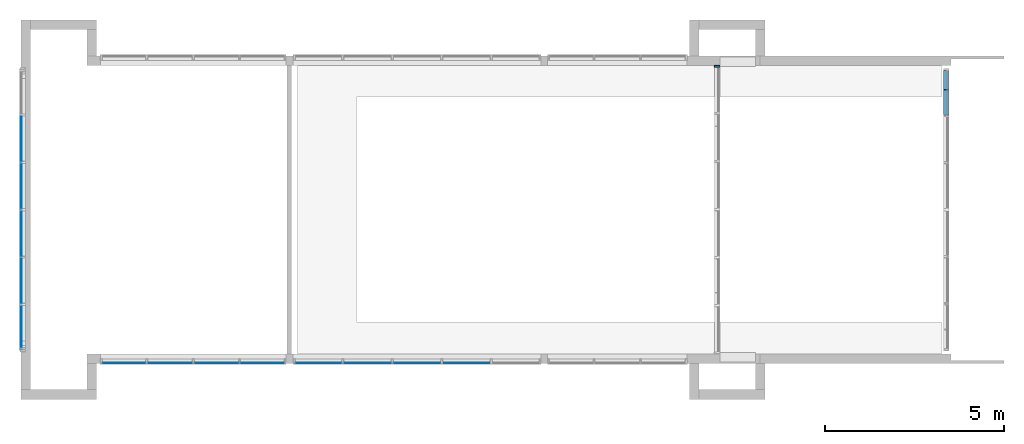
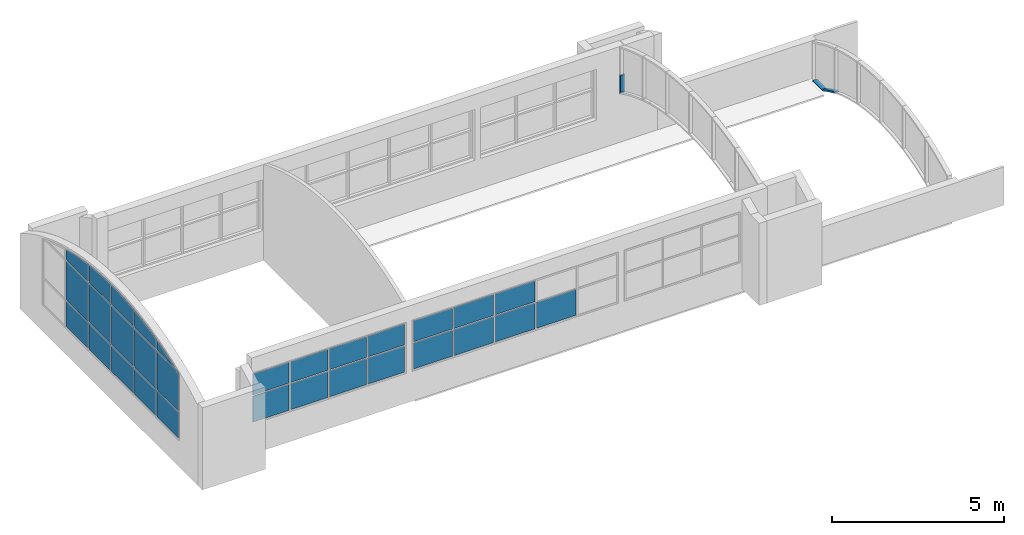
# One storey, part 9 of 14: 30 plates, 5 members, 6 elements without a shape of their own.
"""IFC2X3 building model written with IfcOpenShell, lengths in metres."""

import ifcopenshell
import ifcopenshell.guid

model = None  # the IFC model being written
_history = None  # IfcOwnerHistory: only IFC2X3 demands one
_inside = {}  # id of a spatial element -> (the spatial element, [elements in it])
_under = {}  # id of a project, library or spatial element -> (it, [spatial elements below it])
_declared = {}  # id of a project -> (the project, [libraries it declares])
_typed = {}  # id of a type object -> (the type object, [elements of that type])
_made_of = {}  # id of a material, layer set ... -> (it, [elements and type objects made of it])


def new_model(schema):
    """Start an empty IFC model of exactly this schema.

    Asked for "IFC4X3", IfcOpenShell would pick the latest addendum, in which some entities
    have other attributes; the version numbers below select the first issue.
    IFC2X3 requires an IfcOwnerHistory on every rooted entity: one is made here for all.
    """
    global model, _history
    if schema == "IFC4X3":
        model = ifcopenshell.file(schema_version=(4, 3, 0, 0))
    else:
        model = ifcopenshell.file(schema=schema)
    _inside.clear()
    _under.clear()
    _declared.clear()
    _typed.clear()
    _made_of.clear()
    _history = None
    if model.schema == "IFC2X3":
        org = make("IfcOrganization", Name="unknown")
        user = make(
            "IfcPersonAndOrganization",
            ThePerson=make("IfcPerson", FamilyName="unknown"),
            TheOrganization=org,
        )
        app = make(
            "IfcApplication",
            ApplicationDeveloper=org,
            Version="unknown",
            ApplicationFullName="unknown",
            ApplicationIdentifier="unknown",
        )
        _history = make(
            "IfcOwnerHistory",
            OwningUser=user,
            OwningApplication=app,
            ChangeAction="ADDED",
            CreationDate=0,
        )
    return model


def make(cls, **values):
    """One entity of the class cls with the attributes given. An attribute that is None is left unset."""
    return model.create_entity(
        cls, **{name: value for name, value in values.items() if value is not None}
    )


def entity(cls, *values):
    """Any entity or typed value of the class cls, its attributes in the order of the schema. None: left unset."""
    e = model.create_entity(cls)
    for i, value in enumerate(values):
        if value is not None:
            e[i] = value
    return e


def rooted(cls, **values):
    """An entity with a GlobalId (a new one), such as an element, a storey or a relation."""
    return make(cls, GlobalId=ifcopenshell.guid.new(), OwnerHistory=_history, **values)


def si_unit(unit_type, name, prefix=None):
    """IfcSIUnit, for example si_unit("LENGTHUNIT", "METRE", prefix="MILLI")."""
    return make("IfcSIUnit", UnitType=unit_type, Prefix=prefix, Name=name)


def converted_unit(unit_type, name, factor, base, dimensions=None, offset=None):
    """IfcConversionBasedUnit, such as the inch: factor (a typed value) times the base unit."""
    return make(
        "IfcConversionBasedUnit"
        if offset is None
        else "IfcConversionBasedUnitWithOffset",
        ConversionOffset=offset,
        Dimensions=None
        if dimensions is None
        else entity("IfcDimensionalExponents", *dimensions),
        UnitType=unit_type,
        Name=name,
        ConversionFactor=make(
            "IfcMeasureWithUnit", ValueComponent=factor, UnitComponent=base
        ),
    )


def assignment(units):
    """IfcUnitAssignment: the units of a project."""
    return None if units is None else make("IfcUnitAssignment", Units=units)


def point(xyz):
    """IfcCartesianPoint."""
    return None if xyz is None else make("IfcCartesianPoint", Coordinates=xyz)


def direction(xyz):
    """IfcDirection."""
    return None if xyz is None else make("IfcDirection", DirectionRatios=xyz)


def frame(location, z_axis=None, x_axis=None):
    """IfcAxis2Placement3D, a coordinate frame: its origin and axes. An axis left out is left unset."""
    return make(
        "IfcAxis2Placement3D",
        Location=point(location),
        Axis=direction(z_axis),
        RefDirection=direction(x_axis),
    )


def frame_2d(location, x_axis=None):
    """IfcAxis2Placement2D, a coordinate frame in the plane: its origin and x axis."""
    return make(
        "IfcAxis2Placement2D", Location=point(location), RefDirection=direction(x_axis)
    )


def origin():
    """The frame at (0, 0, 0) with its axes left unset."""
    return frame((0.0, 0.0, 0.0))


def origin_2d_with_axis():
    """The frame at (0, 0) in the plane with the x axis (1, 0) written out."""
    return frame_2d((0.0, 0.0), x_axis=(1.0, 0.0))


def place(relative_to, where):
    """IfcLocalPlacement: puts the frame where relative to a parent placement (None: the world)."""
    return make(
        "IfcLocalPlacement", PlacementRelTo=relative_to, RelativePlacement=where
    )


def context(
    kind, dimensions, precision=None, world=None, true_north=None, identifier=None
):
    """IfcGeometricRepresentationContext, for example the 3D "Model" context."""
    return make(
        "IfcGeometricRepresentationContext",
        ContextIdentifier=identifier,
        ContextType=kind,
        CoordinateSpaceDimension=dimensions,
        Precision=precision,
        WorldCoordinateSystem=world,
        TrueNorth=true_north,
    )


def project(units=None, contexts=None):
    """IfcProject with its units and contexts."""
    return rooted(
        "IfcProject",
        Name="project",
        RepresentationContexts=contexts,
        UnitsInContext=assignment(units),
    )


def spatial(cls, under=None, at=None, **own):
    """A site, building, storey or space (cls), placed at a placement, below another one or the project."""
    s = rooted(cls, ObjectPlacement=at, **own)
    if under is not None:
        _under.setdefault(under.id(), (under, []))[1].append(s)
    return s


def polyline(points):
    """IfcPolyline through the points."""
    return make("IfcPolyline", Points=[point(p) for p in points])


def circle_curve(where, radius):
    """IfcCircle in the frame where."""
    return make("IfcCircle", Position=where, Radius=radius)


def parameter(value):
    """IfcParameterValue: where a trimmed curve begins or ends, as a parameter of its basis curve."""
    return model.create_entity("IfcParameterValue", value)


def trimmed(basis, trim1, trim2, sense, master):
    """IfcTrimmedCurve: the piece of a basis curve between two trims."""
    return make(
        "IfcTrimmedCurve",
        BasisCurve=basis,
        Trim1=trim1,
        Trim2=trim2,
        SenseAgreement=sense,
        MasterRepresentation=master,
    )


def segment(curve, same_sense, transition):
    """IfcCompositeCurveSegment."""
    return make(
        "IfcCompositeCurveSegment",
        Transition=transition,
        SameSense=same_sense,
        ParentCurve=curve,
    )


def composite_curve(segments, self_intersect=None):
    """IfcCompositeCurve: segments joined end to end."""
    return make("IfcCompositeCurve", Segments=segments, SelfIntersect=self_intersect)


def profile(cls, at=None, kind="AREA", **sizes):
    """A parametric profile (cls). Its sizes go by their IFC names, for example OverallWidth=200.0."""
    return make(cls, ProfileType=kind, Position=at, **sizes)


def rectangle(**sizes):
    """IfcRectangleProfileDef."""
    return profile("IfcRectangleProfileDef", **sizes)


def outline(outer, holes=None, kind="AREA"):
    """IfcArbitraryClosedProfileDef: a profile drawn as a closed curve; with holes, ...WithVoids."""
    if holes is None:
        return make("IfcArbitraryClosedProfileDef", ProfileType=kind, OuterCurve=outer)
    return make(
        "IfcArbitraryProfileDefWithVoids",
        ProfileType=kind,
        OuterCurve=outer,
        InnerCurves=holes,
    )


def extrude(swept, where, along, depth):
    """IfcExtrudedAreaSolid: the profile swept, set in the frame where, extruded along a direction by depth."""
    return make(
        "IfcExtrudedAreaSolid",
        SweptArea=swept,
        Position=where,
        ExtrudedDirection=direction(along),
        Depth=depth,
    )


def shape(context_of_items, identifier, shape_type, items):
    """IfcShapeRepresentation: the items that make up one representation, for example the "Body"."""
    return make(
        "IfcShapeRepresentation",
        ContextOfItems=context_of_items,
        RepresentationIdentifier=identifier,
        RepresentationType=shape_type,
        Items=items,
    )


def source(mapping_origin, context_of_items, identifier, shape_type, items):
    """IfcRepresentationMap: a shape defined once, which mapped items show again and again."""
    return make(
        "IfcRepresentationMap",
        MappingOrigin=mapping_origin,
        MappedRepresentation=shape(context_of_items, identifier, shape_type, items),
    )


def transform(
    local_origin,
    x_axis=None,
    y_axis=None,
    z_axis=None,
    scale=None,
    scale2=None,
    scale3=None,
    uniform=True,
):
    """IfcCartesianTransformationOperator3D, or its non-uniform kind. x_axis, y_axis, z_axis: its Axis1, 2, 3."""
    if uniform:
        return make(
            "IfcCartesianTransformationOperator3D",
            Axis1=direction(x_axis),
            Axis2=direction(y_axis),
            LocalOrigin=point(local_origin),
            Scale=scale,
            Axis3=direction(z_axis),
        )
    return make(
        "IfcCartesianTransformationOperator3DnonUniform",
        Axis1=direction(x_axis),
        Axis2=direction(y_axis),
        LocalOrigin=point(local_origin),
        Scale=scale,
        Axis3=direction(z_axis),
        Scale2=scale2,
        Scale3=scale3,
    )


def mapped(mapping_source, mapping_target):
    """IfcMappedItem: shows the shape of a source again, moved by a transform."""
    return make(
        "IfcMappedItem", MappingSource=mapping_source, MappingTarget=mapping_target
    )


def material(Name=None, Category=None):
    """IfcMaterial."""
    return make("IfcMaterial", Name=Name, Category=Category)


def made_of(thing, what):
    """Note that an element or type object is made of a material, layer set ...; save() writes the relation."""
    if what is not None:
        _made_of.setdefault(what.id(), (what, []))[1].append(thing)
    return thing


def type_object(cls, material=None, **own):
    """A type object (cls), such as IfcWallType, which elements share."""
    return made_of(rooted(cls, **own), material)


def type_shapes(of_type, sources):
    """Give a type object the sources (RepresentationMaps) that its elements show as mapped items."""
    of_type.RepresentationMaps = sources


def element(
    cls,
    number,
    at=None,
    inside=None,
    cuts=None,
    type_object=None,
    material=None,
    context=None,
    identifier="Body",
    shape_type=None,
    held_by="IfcProductDefinitionShape",
    body=None,
    shapes=None,
    **own,
):
    """One element of the class cls, such as IfcWall. Its Tag is "e" and its number.

    at: its placement. inside: the storey or other place that contains it. cuts: it is an
    opening in that element (IfcRelVoidsElement). A single representation is given by context,
    identifier, shape_type and body (its items); several are given by shapes. held_by: the class
    of the entity that holds the representations. save() writes the other relations.
    """
    e = rooted(cls, Tag="e%d" % number, ObjectPlacement=at, **own)
    if body is not None:
        shapes = [shape(context, identifier, shape_type, body)]
    if shapes is not None:
        e.Representation = make(held_by, Representations=shapes)
    if inside is not None:
        _inside.setdefault(inside.id(), (inside, []))[1].append(e)
    if cuts is not None:
        rooted(
            "IfcRelVoidsElement", RelatingBuildingElement=cuts, RelatedOpeningElement=e
        )
    if type_object is not None:
        _typed.setdefault(type_object.id(), (type_object, []))[1].append(e)
    return made_of(e, material)


def aggregate(whole, parts):
    """IfcRelAggregates: a whole, such as a stair, and the parts it consists of."""
    return rooted("IfcRelAggregates", RelatingObject=whole, RelatedObjects=parts)


def save(model, path):
    """Write the relations noted so far, then the file.

    IfcRelAggregates (storeys below a building ...), IfcRelContainedInSpatialStructure (elements
    in a storey), IfcRelDefinesByType, IfcRelAssociatesMaterial and IfcRelDeclares: one each for
    every whole, place, type object, material and project.
    """
    for whole, parts in _under.values():
        aggregate(whole, parts)
    for where, things in _inside.values():
        rooted(
            "IfcRelContainedInSpatialStructure",
            RelatedElements=things,
            RelatingStructure=where,
        )
    for kind, things in _typed.values():
        rooted("IfcRelDefinesByType", RelatedObjects=things, RelatingType=kind)
    for what, things in _made_of.values():
        rooted("IfcRelAssociatesMaterial", RelatedObjects=things, RelatingMaterial=what)
    for by, libraries in _declared.values():
        rooted("IfcRelDeclares", RelatingContext=by, RelatedDefinitions=libraries)
    model.write(path)


model = new_model("IFC2X3")

# Units and contexts
model_context = context("Model", 3, precision=1e-09, world=origin())
plan_context = context("Plan", 3, precision=1e-09, world=origin())
ifc_project = project(units=[si_unit("LENGTHUNIT", "METRE"), si_unit("AREAUNIT", "SQUARE_METRE"), si_unit("VOLUMEUNIT", "CUBIC_METRE"), converted_unit("PLANEANGLEUNIT", "DEGREE", entity("IfcRatioMeasure", 0.01745329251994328), si_unit("PLANEANGLEUNIT", "RADIAN"), dimensions=[0, 0, 0, 0, 0, 0, 0]), si_unit("TIMEUNIT", "SECOND")], contexts=[model_context, plan_context])

# Site, building, storey
site_placement = place(None, origin())
site = spatial("IfcSite", under=ifc_project, at=site_placement, Name="Default", CompositionType="ELEMENT")
building_placement = place(site_placement, origin())
building = spatial("IfcBuilding", under=site, at=building_placement, CompositionType="ELEMENT")
storey_placement = place(building_placement, frame((0.0, 0.0, 9.25000000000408)))
storey = spatial("IfcBuildingStorey", under=building, at=storey_placement, Name="Roof - Main", CompositionType="ELEMENT", Elevation=9.25000000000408)

# Curtain wall, members
curtain_wall_1_placement = place(storey_placement, origin())
curtain_wall_1 = element("IfcCurtainWall", 1, at=curtain_wall_1_placement, inside=storey, Name="Curtain Wall:Storefront", ObjectType="Curtain Wall:Storefront")
ifc_material_1 = material(Name="Metal - Aluminium")
member_type_1 = type_object("IfcMemberType", Name="50 x 150mm", PredefinedType="MULLION")
shared_shape_1 = source(origin(), model_context, "Body", "SweptSolid", [
    extrude(outline(polyline([(-0.27285610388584, -0.025), (0.2794152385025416, -0.025), (0.2662969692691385, 0.025), (-0.2728561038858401, 0.025), (-0.27285610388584, -0.025)])), frame((-0.025, -0.07499999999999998, -0.2728561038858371), z_axis=(0.0, 1.0, 0.0), x_axis=(0.0, 0.0, -1.0)), (0.0, 0.0, 1.0), 0.15),
])
type_shapes(member_type_1, [shared_shape_1])
member_1_placement = place(storey_placement, frame((-15.23000000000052, 35.58040399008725, 0.0), z_axis=(0.0, 1.0, 0.0), x_axis=(0.0, 0.0, -1.0)))
member_1 = element("IfcMember", 2, at=member_1_placement, type_object=member_type_1, material=ifc_material_1, Name="Rectangular Mullion:50 x 150mm:50 x 150mm", ObjectType="50 x 150mm", context=model_context, shape_type="MappedRepresentation", body=[
    mapped(shared_shape_1, transform((0.0, 0.0, 0.0), scale=1.0)),
])
member_type_2 = type_object("IfcMemberType", Name="50 x 150mm", PredefinedType="MULLION")
shared_shape_2 = source(origin(), model_context, "Body", "SweptSolid", [
    extrude(outline(composite_curve([segment(polyline([(-0.002336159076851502, -0.3924258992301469), (0.04766384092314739, -0.3924258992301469)]), True, "CONTINUOUS"), segment(trimmed(circle_curve(frame_2d((-6.795351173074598, -0.392425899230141), x_axis=(0.993241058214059, 0.1160698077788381)), 6.843015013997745), [parameter(353.3346662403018)], [parameter(359.8901897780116)], True, "PARAMETER"), True, "CONTINUOUS"), segment(polyline([(0.002922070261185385, 0.3888137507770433), (-0.04824975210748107, 0.3960380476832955)]), True, "CONTINUOUS"), segment(trimmed(circle_curve(frame_2d((-6.795351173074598, -0.392425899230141), x_axis=(0.993241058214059, 0.1160698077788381)), 6.793015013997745), [parameter(353.3346662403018)], [parameter(359.9999999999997)], True, "PARAMETER"), False, "CONTINUOUS")], self_intersect=False)), frame((-0.001955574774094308, -0.07499999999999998, -0.3989615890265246), z_axis=(0.0, 1.0, 0.0), x_axis=(-0.9932410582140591, 0.0, -0.1160698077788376)), (0.0, 0.0, 1.0), 0.1499999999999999),
])
type_shapes(member_type_2, [shared_shape_2])
member_2_placement = place(storey_placement, frame((-15.23000000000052, 35.02813264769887, 0.0), z_axis=(0.0, 0.8711951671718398, -0.4909368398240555), x_axis=(0.0, -0.4909368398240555, -0.8711951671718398)))
member_2 = element("IfcMember", 3, at=member_2_placement, type_object=member_type_2, material=ifc_material_1, Name="Rectangular Mullion:50 x 150mm:50 x 150mm", ObjectType="50 x 150mm", context=model_context, shape_type="MappedRepresentation", body=[
    mapped(shared_shape_2, transform((0.0, 0.0, 0.0), scale=1.0)),
])
aggregate(curtain_wall_1, [member_1, member_2])

# Curtain wall, member
curtain_wall_2_placement = place(storey_placement, origin())
curtain_wall_2 = element("IfcCurtainWall", 4, at=curtain_wall_2_placement, inside=storey, Name="Curtain Wall:Storefront", ObjectType="Curtain Wall:Storefront")
member_type_3 = type_object("IfcMemberType", Name="50 x 150mm", PredefinedType="MULLION")
shared_shape_3 = source(origin(), model_context, "Body", "SweptSolid", [
    extrude(outline(polyline([(-0.3168508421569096, -0.025), (0.3581734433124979, -0.02499999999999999), (0.2755282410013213, 0.025), (-0.3168508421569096, 0.025), (-0.3168508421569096, -0.025)])), frame((-0.025, -0.07499999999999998, -0.3168508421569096), z_axis=(0.0, 1.0, 0.0), x_axis=(0.0, 0.0, -1.0)), (0.0, 0.0, 1.0), 0.15),
])
type_shapes(member_type_3, [shared_shape_3])
member_3_placement = place(storey_placement, frame((-21.61957995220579, 35.717490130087, 2.4), z_axis=(0.0, 0.0, 1.0), x_axis=(0.0, 1.0, 0.0)))
member_3 = element("IfcMember", 5, at=member_3_placement, type_object=member_type_3, material=ifc_material_1, Name="Rectangular Mullion:50 x 150mm:50 x 150mm", ObjectType="50 x 150mm", context=model_context, shape_type="MappedRepresentation", body=[
    mapped(shared_shape_3, transform((0.0, 0.0, 0.0), scale=1.0)),
])
aggregate(curtain_wall_2, [member_3])

# Curtain wall, members
curtain_wall_3_placement = place(storey_placement, origin())
curtain_wall_3 = element("IfcCurtainWall", 6, at=curtain_wall_3_placement, inside=storey, Name="Curtain Wall:Storefront", ObjectType="Curtain Wall:Storefront")
member_type_4 = type_object("IfcMemberType", Name="50 x 150mm", PredefinedType="MULLION")
shared_shape_4 = source(origin(), model_context, "Body", "SweptSolid", [
    extrude(outline(polyline([(-0.2773565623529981, -0.025), (0.270797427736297, -0.025), (0.270797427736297, 0.025), (-0.2642382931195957, 0.025), (-0.2773565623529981, -0.025)])), frame((-0.025, -0.07499999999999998, -0.2773565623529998), z_axis=(0.0, 1.0, 0.0), x_axis=(0.0, 0.0, -1.0)), (0.0, 0.0, 1.0), 0.15),
])
type_shapes(member_type_4, [shared_shape_4])
member_4_placement = place(storey_placement, frame((-15.23000000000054, 35.03224999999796, 0.0), z_axis=(0.0, -1.0, 0.0), x_axis=(0.0, 0.0, -1.0)))
member_4 = element("IfcMember", 7, at=member_4_placement, type_object=member_type_4, material=ifc_material_1, Name="Rectangular Mullion:50 x 150mm:50 x 150mm", ObjectType="50 x 150mm", context=model_context, shape_type="MappedRepresentation", body=[
    mapped(shared_shape_4, transform((0.0, 0.0, 0.0), scale=1.0)),
])
member_type_5 = type_object("IfcMemberType", Name="50 x 150mm", PredefinedType="MULLION")
shared_shape_5 = source(origin(), model_context, "Body", "SweptSolid", [
    extrude(outline(composite_curve([segment(polyline([(-0.1034509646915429, -0.3876226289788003), (-0.05177170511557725, -0.3876226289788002)]), True, "CONTINUOUS"), segment(trimmed(circle_curve(frame_2d((-6.674082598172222, 1.336283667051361), x_axis=(0.9902726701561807, -0.1391403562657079)), 6.843015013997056), [parameter(353.4068276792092)], [parameter(359.9999999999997)], True, "PARAMETER"), True, "CONTINUOUS"), segment(polyline([(0.1023681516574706, 0.3841441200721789), (0.05285451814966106, 0.3911011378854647)]), True, "CONTINUOUS"), segment(trimmed(circle_curve(frame_2d((-6.674082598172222, 1.336283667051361), x_axis=(0.9902726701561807, -0.1391403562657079)), 6.793015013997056), [parameter(353.2970174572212)], [parameter(359.9999999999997)], True, "PARAMETER"), False, "CONTINUOUS")], self_intersect=False)), frame((-0.002077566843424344, -0.07499999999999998, -0.394650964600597), z_axis=(0.0, 1.0, 0.0), x_axis=(-0.9902726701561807, 0.0, 0.1391403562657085)), (0.0, 0.0, 1.0), 0.1499999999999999),
])
type_shapes(member_type_5, [shared_shape_5])
member_5_placement = place(storey_placement, frame((-15.23000000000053, 34.31868599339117, 0.3488101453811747), z_axis=(0.0, -0.9225435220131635, 0.3858930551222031), x_axis=(0.0, -0.3858930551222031, -0.9225435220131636)))
member_5 = element("IfcMember", 8, at=member_5_placement, type_object=member_type_5, material=ifc_material_1, Name="Rectangular Mullion:50 x 150mm:50 x 150mm", ObjectType="50 x 150mm", context=model_context, shape_type="MappedRepresentation", body=[
    mapped(shared_shape_5, transform((0.0, 0.0, 0.0), scale=1.0)),
])
aggregate(curtain_wall_3, [member_4, member_5])

# Curtain wall, plates
curtain_wall_4_placement = place(storey_placement, origin())
curtain_wall_4 = element("IfcCurtainWall", 9, at=curtain_wall_4_placement, inside=storey, Name="Curtain Wall:Storefront", ObjectType="Curtain Wall:Storefront")
ifc_material_2 = material(Name="Glass")
plate_type_1 = type_object("IfcPlateType", Name="Glazed", PredefinedType="CURTAIN_PANEL")
shared_shape_6 = source(origin(), model_context, "Body", "SweptSolid", [
    extrude(rectangle(XDim=0.025, YDim=1.244395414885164, at=origin_2d_with_axis()), frame((0.0, 0.0369999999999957, 0.0), z_axis=(0.0, 0.0, 1.0), x_axis=(0.0, 1.0, 0.0)), (0.0, 0.0, 1.0), 0.9118944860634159),
])
type_shapes(plate_type_1, [shared_shape_6])
plate_1_placement = place(storey_placement, frame((-40.99000000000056, 28.40901146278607, 1.117), z_axis=(0.0, 0.0, 1.0), x_axis=(0.0, 1.0, 0.0)))
plate_1 = element("IfcPlate", 10, at=plate_1_placement, type_object=plate_type_1, material=ifc_material_2, Name="System Panel:Glazed:Glazed", ObjectType="Glazed", context=model_context, shape_type="MappedRepresentation", body=[
    mapped(shared_shape_6, transform((0.0, 0.0, 0.0), scale=1.0)),
])
plate_type_2 = type_object("IfcPlateType", Name="Glazed", PredefinedType="CURTAIN_PANEL")
shared_shape_7 = source(origin(), model_context, "Body", "SweptSolid", [
    extrude(rectangle(XDim=0.025, YDim=1.269395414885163, at=origin_2d_with_axis()), frame((0.0, 0.03699999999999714, 0.0), z_axis=(0.0, 0.0, 1.0), x_axis=(0.0, 1.0, 0.0)), (0.0, 0.0, 1.0), 0.9118944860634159),
])
type_shapes(plate_type_2, [shared_shape_7])
plate_2_placement = place(storey_placement, frame((-40.99000000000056, 29.71590687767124, 1.117), z_axis=(0.0, 0.0, 1.0), x_axis=(0.0, 1.0, 0.0)))
plate_2 = element("IfcPlate", 11, at=plate_2_placement, type_object=plate_type_2, material=ifc_material_2, Name="System Panel:Glazed:Glazed", ObjectType="Glazed", context=model_context, shape_type="MappedRepresentation", body=[
    mapped(shared_shape_7, transform((0.0, 0.0, 0.0), scale=1.0)),
])
plate_3_placement = place(storey_placement, frame((-40.99000000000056, 31.0353022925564, 1.117), z_axis=(0.0, 0.0, 1.0), x_axis=(0.0, 1.0, 0.0)))
plate_3 = element("IfcPlate", 12, at=plate_3_placement, type_object=plate_type_2, material=ifc_material_2, Name="System Panel:Glazed:Glazed", ObjectType="Glazed", context=model_context, shape_type="MappedRepresentation", body=[
    mapped(shared_shape_7, transform((0.0, 0.0, 0.0), scale=1.0)),
])
plate_4_placement = place(storey_placement, frame((-40.99000000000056, 32.35469770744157, 1.117), z_axis=(0.0, 0.0, 1.0), x_axis=(0.0, 1.0, 0.0)))
plate_4 = element("IfcPlate", 13, at=plate_4_placement, type_object=plate_type_2, material=ifc_material_2, Name="System Panel:Glazed:Glazed", ObjectType="Glazed", context=model_context, shape_type="MappedRepresentation", body=[
    mapped(shared_shape_7, transform((0.0, 0.0, 0.0), scale=1.0)),
])
plate_5_placement = place(storey_placement, frame((-40.99000000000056, 33.67409312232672, 1.117), z_axis=(0.0, 0.0, 1.0), x_axis=(0.0, 1.0, 0.0)))
plate_5 = element("IfcPlate", 14, at=plate_5_placement, type_object=plate_type_2, material=ifc_material_2, Name="System Panel:Glazed:Glazed", ObjectType="Glazed", context=model_context, shape_type="MappedRepresentation", body=[
    mapped(shared_shape_7, transform((0.0, 0.0, 0.0), scale=1.0)),
])
plate_type_3 = type_object("IfcPlateType", Name="Glazed", PredefinedType="CURTAIN_PANEL")
shared_shape_8 = source(origin(), model_context, "Body", "SweptSolid", [
    extrude(outline(composite_curve([segment(polyline([(-0.8968207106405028, -0.4350021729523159), (0.4160751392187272, -0.4350021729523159)]), True, "CONTINUOUS"), segment(trimmed(circle_curve(frame_2d((-8.952356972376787, 3.473184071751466), x_axis=(0.9257625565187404, -0.3781053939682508)), 10.1509329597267), [parameter(359.5721641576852)], [parameter(0.0)], True, "PARAMETER"), True, "CONTINUOUS"), segment(polyline([(0.4449966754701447, -0.3649384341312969), (0.4662848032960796, -0.3838437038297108)]), True, "CONTINUOUS"), segment(polyline([(0.4662848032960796, -0.3838437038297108), (0.4662848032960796, 0.8093932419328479)]), True, "CONTINUOUS"), segment(polyline([(0.4662848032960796, 0.8093932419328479), (-0.8968207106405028, 0.8093932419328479)]), True, "CONTINUOUS"), segment(polyline([(-0.8968207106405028, 0.8093932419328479), (-0.8968207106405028, -0.4350021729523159)]), True, "CONTINUOUS")], self_intersect=False)), frame((-0.1871955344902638, 0.0244999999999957, 0.8968207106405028), z_axis=(0.0, 1.0, 0.0), x_axis=(0.0, 0.0, 1.0)), (0.0, 0.0, 1.0), 0.025),
])
type_shapes(plate_type_3, [shared_shape_8])
plate_6_placement = place(storey_placement, frame((-40.99000000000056, 28.40901146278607, 2.078894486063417), z_axis=(0.0, 0.0, 1.0), x_axis=(0.0, 1.0, 0.0)))
plate_6 = element("IfcPlate", 15, at=plate_6_placement, type_object=plate_type_3, material=ifc_material_2, Name="System Panel:Glazed:Glazed", ObjectType="Glazed", context=model_context, shape_type="MappedRepresentation", body=[
    mapped(shared_shape_8, transform((0.0, 0.0, 0.0), scale=1.0)),
])
plate_type_4 = type_object("IfcPlateType", Name="Glazed", PredefinedType="CURTAIN_PANEL")
shared_shape_9 = source(origin(), model_context, "Body", "SweptSolid", [
    extrude(rectangle(XDim=0.025, YDim=1.269395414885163, at=origin_2d_with_axis()), frame((0.0, 0.03699999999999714, 0.0), z_axis=(0.0, 0.0, 1.0), x_axis=(0.0, 1.0, 0.0)), (0.0, 0.0, 1.0), 1.363105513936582),
])
type_shapes(plate_type_4, [shared_shape_9])
plate_7_placement = place(storey_placement, frame((-40.99000000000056, 29.71590687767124, 2.078894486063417), z_axis=(0.0, 0.0, 1.0), x_axis=(0.0, 1.0, 0.0)))
plate_7 = element("IfcPlate", 16, at=plate_7_placement, type_object=plate_type_4, material=ifc_material_2, Name="System Panel:Glazed:Glazed", ObjectType="Glazed", context=model_context, shape_type="MappedRepresentation", body=[
    mapped(shared_shape_9, transform((0.0, 0.0, 0.0), scale=1.0)),
])
plate_8_placement = place(storey_placement, frame((-40.99000000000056, 31.0353022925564, 2.078894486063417), z_axis=(0.0, 0.0, 1.0), x_axis=(0.0, 1.0, 0.0)))
plate_8 = element("IfcPlate", 17, at=plate_8_placement, type_object=plate_type_4, material=ifc_material_2, Name="System Panel:Glazed:Glazed", ObjectType="Glazed", context=model_context, shape_type="MappedRepresentation", body=[
    mapped(shared_shape_9, transform((0.0, 0.0, 0.0), scale=1.0)),
])
plate_9_placement = place(storey_placement, frame((-40.99000000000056, 32.35469770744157, 2.078894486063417), z_axis=(0.0, 0.0, 1.0), x_axis=(0.0, 1.0, 0.0)))
plate_9 = element("IfcPlate", 18, at=plate_9_placement, type_object=plate_type_4, material=ifc_material_2, Name="System Panel:Glazed:Glazed", ObjectType="Glazed", context=model_context, shape_type="MappedRepresentation", body=[
    mapped(shared_shape_9, transform((0.0, 0.0, 0.0), scale=1.0)),
])
plate_10_placement = place(storey_placement, frame((-40.99000000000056, 33.67409312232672, 2.078894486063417), z_axis=(0.0, 0.0, 1.0), x_axis=(0.0, 1.0, 0.0)))
plate_10 = element("IfcPlate", 19, at=plate_10_placement, type_object=plate_type_4, material=ifc_material_2, Name="System Panel:Glazed:Glazed", ObjectType="Glazed", context=model_context, shape_type="MappedRepresentation", body=[
    mapped(shared_shape_9, transform((0.0, 0.0, 0.0), scale=1.0)),
])
plate_type_5 = type_object("IfcPlateType", Name="Glazed", PredefinedType="CURTAIN_PANEL")
shared_shape_10 = source(origin(), model_context, "Body", "SweptSolid", [
    extrude(outline(composite_curve([segment(trimmed(circle_curve(frame_2d((-10.02636112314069, 0.4159611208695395), x_axis=(1.0, 0.0)), 10.15093295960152), [parameter(353.8650828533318)], [parameter(359.7782253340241)], True, "PARAMETER"), True, "CONTINUOUS"), segment(polyline([(0.1244957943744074, 0.3766700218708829), (-0.1909332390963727, 0.2921992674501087)]), True, "CONTINUOUS"), segment(polyline([(-0.1909332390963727, 0.2921992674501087), (0.06643744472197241, -0.6688692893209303)]), True, "CONTINUOUS")], self_intersect=False)), frame((0.1658222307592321, 0.02449999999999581, 0.1088478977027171), z_axis=(0.0, 1.0, 0.0), x_axis=(-0.2586813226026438, 0.0, 0.9659627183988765)), (0.0, 0.0, 1.0), 0.02499999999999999),
])
type_shapes(plate_type_5, [shared_shape_10])
plate_11_placement = place(storey_placement, frame((-40.99000000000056, 28.5337424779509, 3.492000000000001), z_axis=(0.0, 0.0, 1.0), x_axis=(0.0, 1.0, 0.0)))
plate_11 = element("IfcPlate", 20, at=plate_11_placement, type_object=plate_type_5, material=ifc_material_2, Name="System Panel:Glazed:Glazed", ObjectType="Glazed", context=model_context, shape_type="MappedRepresentation", body=[
    mapped(shared_shape_10, transform((0.0, 0.0, 0.0), scale=1.0)),
])
plate_type_6 = type_object("IfcPlateType", Name="Glazed", PredefinedType="CURTAIN_PANEL")
shared_shape_11 = source(origin(), model_context, "Body", "SweptSolid", [
    extrude(outline(composite_curve([segment(polyline([(-0.2332188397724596, -0.6346977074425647), (0.1067854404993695, -0.6346977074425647)]), True, "CONTINUOUS"), segment(trimmed(circle_curve(frame_2d((-9.70186061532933, 1.979093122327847), x_axis=(0.9916002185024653, -0.1293406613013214)), 10.15093295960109), [parameter(352.5101554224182)], [parameter(359.8208465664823)], True, "PARAMETER"), True, "CONTINUOUS"), segment(polyline([(0.3596522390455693, 0.6346977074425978), (-0.2332188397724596, 0.6346977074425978)]), True, "CONTINUOUS"), segment(polyline([(-0.2332188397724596, 0.6346977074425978), (-0.2332188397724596, -0.6346977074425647)]), True, "CONTINUOUS")], self_intersect=False)), frame((0.0, 0.02449999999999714, 0.2332188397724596), z_axis=(0.0, 1.0, 0.0), x_axis=(0.0, 0.0, 1.0)), (0.0, 0.0, 1.0), 0.025),
])
type_shapes(plate_type_6, [shared_shape_11])
plate_12_placement = place(storey_placement, frame((-40.99000000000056, 29.71590687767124, 3.492000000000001), z_axis=(0.0, 0.0, 1.0), x_axis=(0.0, 1.0, 0.0)))
plate_12 = element("IfcPlate", 21, at=plate_12_placement, type_object=plate_type_6, material=ifc_material_2, Name="System Panel:Glazed:Glazed", ObjectType="Glazed", context=model_context, shape_type="MappedRepresentation", body=[
    mapped(shared_shape_11, transform((0.0, 0.0, 0.0), scale=1.0)),
])
plate_type_7 = type_object("IfcPlateType", Name="Glazed", PredefinedType="CURTAIN_PANEL")
shared_shape_12 = source(origin(), model_context, "Body", "SweptSolid", [
    extrude(outline(composite_curve([segment(polyline([(-0.3204214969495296, -0.6346977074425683), (0.2790040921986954, -0.6346977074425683)]), True, "CONTINUOUS"), segment(trimmed(circle_curve(frame_2d((-9.789063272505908, 0.6596977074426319), x_axis=(1.0, 0.0)), 10.1509329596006), [parameter(352.6739873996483)], [parameter(359.8588902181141)], True, "PARAMETER"), True, "CONTINUOUS"), segment(polyline([(0.3618389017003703, 0.6346977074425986), (-0.3204214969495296, 0.6346977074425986)]), True, "CONTINUOUS"), segment(polyline([(-0.3204214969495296, 0.6346977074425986), (-0.3204214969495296, -0.6346977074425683)]), True, "CONTINUOUS")], self_intersect=False)), frame((0.0, 0.02449999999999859, 0.3204214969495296), z_axis=(0.0, 1.0, 0.0), x_axis=(0.0, 0.0, 1.0)), (0.0, 0.0, 1.0), 0.025),
])
type_shapes(plate_type_7, [shared_shape_12])
plate_13_placement = place(storey_placement, frame((-40.99000000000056, 31.0353022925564, 3.492000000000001), z_axis=(0.0, 0.0, 1.0), x_axis=(0.0, 1.0, 0.0)))
plate_13 = element("IfcPlate", 22, at=plate_13_placement, type_object=plate_type_7, material=ifc_material_2, Name="System Panel:Glazed:Glazed", ObjectType="Glazed", context=model_context, shape_type="MappedRepresentation", body=[
    mapped(shared_shape_12, transform((0.0, 0.0, 0.0), scale=1.0)),
])
plate_type_8 = type_object("IfcPlateType", Name="Glazed", PredefinedType="CURTAIN_PANEL")
shared_shape_13 = source(origin(), model_context, "Body", "SweptSolid", [
    extrude(outline(composite_curve([segment(polyline([(-0.3204214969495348, 0.634697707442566), (-0.3204214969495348, -0.6346977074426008)]), True, "CONTINUOUS"), segment(polyline([(-0.3204214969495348, -0.6346977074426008), (0.2790040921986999, -0.6346977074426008)]), True, "CONTINUOUS"), segment(trimmed(circle_curve(frame_2d((-9.78906327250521, 0.659697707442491), x_axis=(0.9916002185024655, -0.1293406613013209)), 10.1509329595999), [parameter(0.1054807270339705)], [parameter(7.290383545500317)], True, "PARAMETER"), True, "CONTINUOUS"), segment(polyline([(0.3618389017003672, 0.634697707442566), (-0.3204214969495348, 0.634697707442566)]), True, "CONTINUOUS")], self_intersect=False)), frame((0.0, 0.02450000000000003, 0.3204214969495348), z_axis=(0.0, -1.0, 0.0), x_axis=(0.0, 0.0, 1.0)), (0.0, 0.0, -1.0), 0.025),
])
type_shapes(plate_type_8, [shared_shape_13])
plate_14_placement = place(storey_placement, frame((-40.99000000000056, 32.35469770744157, 3.492000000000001), z_axis=(0.0, 0.0, 1.0), x_axis=(0.0, 1.0, 0.0)))
plate_14 = element("IfcPlate", 23, at=plate_14_placement, type_object=plate_type_8, material=ifc_material_2, Name="System Panel:Glazed:Glazed", ObjectType="Glazed", context=model_context, shape_type="MappedRepresentation", body=[
    mapped(shared_shape_13, transform((0.0, 0.0, 0.0), scale=1.0)),
])
plate_type_9 = type_object("IfcPlateType", Name="Glazed", PredefinedType="CURTAIN_PANEL")
shared_shape_14 = source(origin(), model_context, "Body", "SweptSolid", [
    extrude(outline(composite_curve([segment(polyline([(-0.2332188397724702, 0.634697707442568), (-0.2332188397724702, -0.6346977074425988)]), True, "CONTINUOUS"), segment(polyline([(-0.2332188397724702, -0.6346977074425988), (0.1067854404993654, -0.6346977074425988)]), True, "CONTINUOUS"), segment(trimmed(circle_curve(frame_2d((-9.701860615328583, 1.979093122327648), x_axis=(0.9659627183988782, -0.2586813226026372)), 10.15093295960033), [parameter(0.0704929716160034)], [parameter(7.381184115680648)], True, "PARAMETER"), True, "CONTINUOUS"), segment(polyline([(0.3596522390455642, 0.634697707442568), (-0.2332188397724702, 0.634697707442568)]), True, "CONTINUOUS")], self_intersect=False)), frame((0.0, 0.02450000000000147, 0.2332188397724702), z_axis=(0.0, -1.0, 0.0), x_axis=(0.0, 0.0, 1.0)), (0.0, 0.0, -1.0), 0.025),
])
type_shapes(plate_type_9, [shared_shape_14])
plate_15_placement = place(storey_placement, frame((-40.99000000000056, 33.67409312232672, 3.492000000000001), z_axis=(0.0, 0.0, 1.0), x_axis=(0.0, 1.0, 0.0)))
plate_15 = element("IfcPlate", 24, at=plate_15_placement, type_object=plate_type_9, material=ifc_material_2, Name="System Panel:Glazed:Glazed", ObjectType="Glazed", context=model_context, shape_type="MappedRepresentation", body=[
    mapped(shared_shape_14, transform((0.0, 0.0, 0.0), scale=1.0)),
])
aggregate(curtain_wall_4, [plate_1, plate_2, plate_3, plate_4, plate_5, plate_6, plate_7, plate_8, plate_9, plate_10, plate_11, plate_12, plate_13, plate_14, plate_15])

curtain_wall_5_placement = place(storey_placement, origin())
curtain_wall_5 = element("IfcCurtainWall", 25, at=curtain_wall_5_placement, inside=storey, Name="Curtain Wall:Storefront", ObjectType="Curtain Wall:Storefront")
plate_type_10 = type_object("IfcPlateType", Name="Glazed", PredefinedType="CURTAIN_PANEL")
shared_shape_15 = source(origin(), model_context, "Body", "SweptSolid", [
    extrude(rectangle(XDim=0.02500000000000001, YDim=1.22, at=origin_2d_with_axis()), frame((0.0, -0.037, 0.0), z_axis=(0.0, 0.0, 1.0), x_axis=(0.0, 1.0, 0.0)), (0.0, 0.0, 1.0), 0.9118944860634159),
])
type_shapes(plate_type_10, [shared_shape_15])
plate_16_placement = place(storey_placement, frame((-38.16600000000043, 27.45559600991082, 1.117)))
plate_16 = element("IfcPlate", 26, at=plate_16_placement, type_object=plate_type_10, material=ifc_material_2, Name="System Panel:Glazed:Glazed", ObjectType="Glazed", context=model_context, shape_type="MappedRepresentation", body=[
    mapped(shared_shape_15, transform((0.0, 0.0, 0.0), scale=1.0)),
])
plate_17_placement = place(storey_placement, frame((-34.30600000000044, 27.45559600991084, 1.117)))
plate_17 = element("IfcPlate", 27, at=plate_17_placement, type_object=plate_type_10, material=ifc_material_2, Name="System Panel:Glazed:Glazed", ObjectType="Glazed", context=model_context, shape_type="MappedRepresentation", body=[
    mapped(shared_shape_15, transform((0.0, 0.0, 0.0), scale=1.0)),
])
plate_type_11 = type_object("IfcPlateType", Name="Glazed", PredefinedType="CURTAIN_PANEL")
shared_shape_16 = source(origin(), model_context, "Body", "SweptSolid", [
    extrude(rectangle(XDim=0.02500000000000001, YDim=1.245000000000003, at=origin_2d_with_axis()), frame((0.0, -0.03699999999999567, 0.0), z_axis=(0.0, 0.0, 1.0), x_axis=(0.0, 1.0, 0.0)), (0.0, 0.0, 1.0), 0.9118944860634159),
])
type_shapes(plate_type_11, [shared_shape_16])
plate_18_placement = place(storey_placement, frame((-36.88350000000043, 27.45559600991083, 1.117)))
plate_18 = element("IfcPlate", 28, at=plate_18_placement, type_object=plate_type_11, material=ifc_material_2, Name="System Panel:Glazed:Glazed", ObjectType="Glazed", context=model_context, shape_type="MappedRepresentation", body=[
    mapped(shared_shape_16, transform((0.0, 0.0, 0.0), scale=1.0)),
])
plate_19_placement = place(storey_placement, frame((-35.58850000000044, 27.45559600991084, 1.117)))
plate_19 = element("IfcPlate", 29, at=plate_19_placement, type_object=plate_type_11, material=ifc_material_2, Name="System Panel:Glazed:Glazed", ObjectType="Glazed", context=model_context, shape_type="MappedRepresentation", body=[
    mapped(shared_shape_16, transform((0.0, 0.0, 0.0), scale=1.0)),
])
plate_type_12 = type_object("IfcPlateType", Name="Glazed", PredefinedType="CURTAIN_PANEL")
shared_shape_17 = source(origin(), model_context, "Body", "SweptSolid", [
    extrude(rectangle(XDim=0.02500000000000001, YDim=1.22, at=origin_2d_with_axis()), frame((0.0, -0.037, 0.0), z_axis=(0.0, 0.0, 1.0), x_axis=(0.0, 1.0, 0.0)), (0.0, 0.0, 1.0), 0.7381055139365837),
])
type_shapes(plate_type_12, [shared_shape_17])
plate_20_placement = place(storey_placement, frame((-38.16600000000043, 27.45559600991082, 2.078894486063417)))
plate_20 = element("IfcPlate", 30, at=plate_20_placement, type_object=plate_type_12, material=ifc_material_2, Name="System Panel:Glazed:Glazed", ObjectType="Glazed", context=model_context, shape_type="MappedRepresentation", body=[
    mapped(shared_shape_17, transform((0.0, 0.0, 0.0), scale=1.0)),
])
plate_21_placement = place(storey_placement, frame((-34.30600000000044, 27.45559600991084, 2.078894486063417)))
plate_21 = element("IfcPlate", 31, at=plate_21_placement, type_object=plate_type_12, material=ifc_material_2, Name="System Panel:Glazed:Glazed", ObjectType="Glazed", context=model_context, shape_type="MappedRepresentation", body=[
    mapped(shared_shape_17, transform((0.0, 0.0, 0.0), scale=1.0)),
])
plate_type_13 = type_object("IfcPlateType", Name="Glazed", PredefinedType="CURTAIN_PANEL")
shared_shape_18 = source(origin(), model_context, "Body", "SweptSolid", [
    extrude(rectangle(XDim=0.02500000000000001, YDim=1.245000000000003, at=origin_2d_with_axis()), frame((0.0, -0.03699999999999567, 0.0), z_axis=(0.0, 0.0, 1.0), x_axis=(0.0, 1.0, 0.0)), (0.0, 0.0, 1.0), 0.7381055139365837),
])
type_shapes(plate_type_13, [shared_shape_18])
plate_22_placement = place(storey_placement, frame((-36.88350000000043, 27.45559600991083, 2.078894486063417)))
plate_22 = element("IfcPlate", 32, at=plate_22_placement, type_object=plate_type_13, material=ifc_material_2, Name="System Panel:Glazed:Glazed", ObjectType="Glazed", context=model_context, shape_type="MappedRepresentation", body=[
    mapped(shared_shape_18, transform((0.0, 0.0, 0.0), scale=1.0)),
])
plate_23_placement = place(storey_placement, frame((-35.58850000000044, 27.45559600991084, 2.078894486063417)))
plate_23 = element("IfcPlate", 33, at=plate_23_placement, type_object=plate_type_13, material=ifc_material_2, Name="System Panel:Glazed:Glazed", ObjectType="Glazed", context=model_context, shape_type="MappedRepresentation", body=[
    mapped(shared_shape_18, transform((0.0, 0.0, 0.0), scale=1.0)),
])
aggregate(curtain_wall_5, [plate_16, plate_18, plate_19, plate_17, plate_20, plate_22, plate_23, plate_21])

curtain_wall_6_placement = place(storey_placement, origin())
curtain_wall_6 = element("IfcCurtainWall", 34, at=curtain_wall_6_placement, inside=storey, Name="Curtain Wall:Storefront", ObjectType="Curtain Wall:Storefront")
plate_type_14 = type_object("IfcPlateType", Name="Glazed", PredefinedType="CURTAIN_PANEL")
shared_shape_19 = source(origin(), model_context, "Body", "SweptSolid", [
    extrude(rectangle(XDim=0.02500000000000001, YDim=1.331000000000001, at=origin_2d_with_axis()), frame((0.0, -0.03699999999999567, 0.0), z_axis=(0.0, 0.0, 1.0), x_axis=(0.0, 1.0, 0.0)), (0.0, 0.0, 1.0), 0.9118944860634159),
])
type_shapes(plate_type_14, [shared_shape_19])
plate_24_placement = place(storey_placement, frame((-31.37250000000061, 27.45559600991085, 1.117)))
plate_24 = element("IfcPlate", 35, at=plate_24_placement, type_object=plate_type_14, material=ifc_material_2, Name="System Panel:Glazed:Glazed", ObjectType="Glazed", context=model_context, shape_type="MappedRepresentation", body=[
    mapped(shared_shape_19, transform((0.0, 0.0, 0.0), scale=1.0)),
])
plate_25_placement = place(storey_placement, frame((-29.99150000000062, 27.45559600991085, 1.117)))
plate_25 = element("IfcPlate", 36, at=plate_25_placement, type_object=plate_type_14, material=ifc_material_2, Name="System Panel:Glazed:Glazed", ObjectType="Glazed", context=model_context, shape_type="MappedRepresentation", body=[
    mapped(shared_shape_19, transform((0.0, 0.0, 0.0), scale=1.0)),
])
plate_26_placement = place(storey_placement, frame((-28.61050000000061, 27.45559600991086, 1.117)))
plate_26 = element("IfcPlate", 37, at=plate_26_placement, type_object=plate_type_14, material=ifc_material_2, Name="System Panel:Glazed:Glazed", ObjectType="Glazed", context=model_context, shape_type="MappedRepresentation", body=[
    mapped(shared_shape_19, transform((0.0, 0.0, 0.0), scale=1.0)),
])
plate_type_15 = type_object("IfcPlateType", Name="Glazed", PredefinedType="CURTAIN_PANEL")
shared_shape_20 = source(origin(), model_context, "Body", "SweptSolid", [
    extrude(rectangle(XDim=0.02500000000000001, YDim=1.305999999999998, at=origin_2d_with_axis()), frame((0.0, -0.037, 0.0), z_axis=(0.0, 0.0, 1.0), x_axis=(0.0, 1.0, 0.0)), (0.0, 0.0, 1.0), 0.9118944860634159),
])
type_shapes(plate_type_15, [shared_shape_20])
plate_27_placement = place(storey_placement, frame((-32.74100000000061, 27.45559600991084, 1.117)))
plate_27 = element("IfcPlate", 38, at=plate_27_placement, type_object=plate_type_15, material=ifc_material_2, Name="System Panel:Glazed:Glazed", ObjectType="Glazed", context=model_context, shape_type="MappedRepresentation", body=[
    mapped(shared_shape_20, transform((0.0, 0.0, 0.0), scale=1.0)),
])
plate_type_16 = type_object("IfcPlateType", Name="Glazed", PredefinedType="CURTAIN_PANEL")
shared_shape_21 = source(origin(), model_context, "Body", "SweptSolid", [
    extrude(rectangle(XDim=0.02500000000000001, YDim=1.331000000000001, at=origin_2d_with_axis()), frame((0.0, -0.03699999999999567, 0.0), z_axis=(0.0, 0.0, 1.0), x_axis=(0.0, 1.0, 0.0)), (0.0, 0.0, 1.0), 0.7381055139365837),
])
type_shapes(plate_type_16, [shared_shape_21])
plate_28_placement = place(storey_placement, frame((-31.37250000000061, 27.45559600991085, 2.078894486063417)))
plate_28 = element("IfcPlate", 39, at=plate_28_placement, type_object=plate_type_16, material=ifc_material_2, Name="System Panel:Glazed:Glazed", ObjectType="Glazed", context=model_context, shape_type="MappedRepresentation", body=[
    mapped(shared_shape_21, transform((0.0, 0.0, 0.0), scale=1.0)),
])
plate_29_placement = place(storey_placement, frame((-29.99150000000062, 27.45559600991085, 2.078894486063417)))
plate_29 = element("IfcPlate", 40, at=plate_29_placement, type_object=plate_type_16, material=ifc_material_2, Name="System Panel:Glazed:Glazed", ObjectType="Glazed", context=model_context, shape_type="MappedRepresentation", body=[
    mapped(shared_shape_21, transform((0.0, 0.0, 0.0), scale=1.0)),
])
plate_type_17 = type_object("IfcPlateType", Name="Glazed", PredefinedType="CURTAIN_PANEL")
shared_shape_22 = source(origin(), model_context, "Body", "SweptSolid", [
    extrude(rectangle(XDim=0.02500000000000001, YDim=1.305999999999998, at=origin_2d_with_axis()), frame((0.0, -0.037, 0.0), z_axis=(0.0, 0.0, 1.0), x_axis=(0.0, 1.0, 0.0)), (0.0, 0.0, 1.0), 0.7381055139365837),
])
type_shapes(plate_type_17, [shared_shape_22])
plate_30_placement = place(storey_placement, frame((-32.74100000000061, 27.45559600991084, 2.078894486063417)))
plate_30 = element("IfcPlate", 41, at=plate_30_placement, type_object=plate_type_17, material=ifc_material_2, Name="System Panel:Glazed:Glazed", ObjectType="Glazed", context=model_context, shape_type="MappedRepresentation", body=[
    mapped(shared_shape_22, transform((0.0, 0.0, 0.0), scale=1.0)),
])
aggregate(curtain_wall_6, [plate_24, plate_25, plate_26, plate_28, plate_29, plate_27, plate_30])

save(model, "model.ifc")
